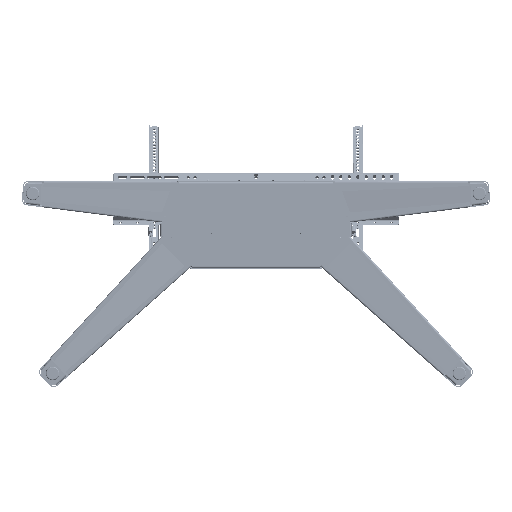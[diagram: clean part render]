
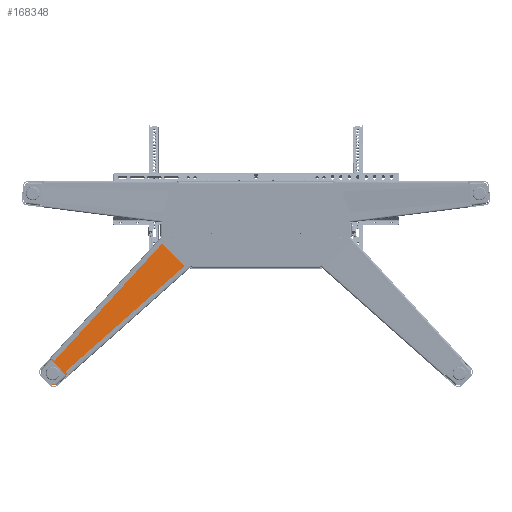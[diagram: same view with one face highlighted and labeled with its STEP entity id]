
A CAD part, left-side view. The second image highlights one B-rep face of the part: STEP entity #168348.
In plain terms, the highlighted planar face has unit normal (-0.999, -0.034, 0.033) as drawn and (0.034, -0.999, 0.033) by its records, which use the part's own axes.
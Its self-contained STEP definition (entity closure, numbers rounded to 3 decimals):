
#165981=CARTESIAN_POINT('',(-273.485,51.496,
-28.513));
#166059=CARTESIAN_POINT('',(-192.036,51.505,
-111.107));
#166082=CARTESIAN_POINT('',(-192.879,51.496,
-110.538));
#166385=DIRECTION('',(0.701,0.,-0.713));
#166386=VECTOR('',#166385,41.477);
#166387=CARTESIAN_POINT('',(-632.435,25.731,
-432.798));
#166388=LINE('',#166387,#166386);
#166454=DIRECTION('',(0.712,0.048,0.7));
#166455=VECTOR('',#166454,0.147);
#166456=CARTESIAN_POINT('',(-603.363,25.731,
-462.382));
#166457=LINE('',#166456,#166455);
#166463=DIRECTION('',(0.676,0.048,0.735));
#166464=VECTOR('',#166463,531.126);
#166465=CARTESIAN_POINT('',(-632.632,26.187,
-418.982));
#166466=LINE('',#166465,#166464);
#166467=CARTESIAN_POINT('',(-273.485,51.496,
-28.513));
#166468=CARTESIAN_POINT('',(-273.475,51.497,
-28.503));
#166469=CARTESIAN_POINT('',(-273.458,51.498,
-28.481));
#166470=CARTESIAN_POINT('',(-273.427,51.5,
-28.453));
#166471=CARTESIAN_POINT('',(-273.407,51.502,
-28.433));
#166472=CARTESIAN_POINT('',(-273.396,51.502,
-28.423));
#166474=CARTESIAN_POINT('',(-192.036,51.505,
-111.107));
#166475=CARTESIAN_POINT('',(-192.062,51.504,
-111.129));
#166476=CARTESIAN_POINT('',(-192.1,51.503,
-111.137));
#166477=CARTESIAN_POINT('',(-192.168,51.503,
-111.073));
#166478=CARTESIAN_POINT('',(-192.241,51.502,
-111.024));
#166479=CARTESIAN_POINT('',(-192.323,51.501,
-110.964));
#166480=CARTESIAN_POINT('',(-192.414,51.5,
-110.9));
#166481=CARTESIAN_POINT('',(-192.514,51.499,
-110.827));
#166482=CARTESIAN_POINT('',(-192.624,51.498,
-110.744));
#166483=CARTESIAN_POINT('',(-192.745,51.497,
-110.649));
#166484=CARTESIAN_POINT('',(-192.833,51.497,
-110.576));
#166485=CARTESIAN_POINT('',(-192.879,51.496,
-110.538));
#166487=DIRECTION('',(-0.747,-0.048,
-0.663));
#166488=VECTOR('',#166487,531.125);
#166489=CARTESIAN_POINT('',(-192.879,51.496,
-110.538));
#166490=LINE('',#166489,#166488);
#166491=DIRECTION('',(-0.664,0.002,0.748));
#166492=VECTOR('',#166491,0.103);
#166493=CARTESIAN_POINT('',(-589.555,26.187,
-462.818));
#166494=LINE('',#166493,#166492);
#166495=CARTESIAN_POINT('',(-589.623,26.187,
-462.741));
#166496=CARTESIAN_POINT('',(-590.456,26.136,
-463.43));
#166497=CARTESIAN_POINT('',(-592.138,26.042,
-464.516));
#166498=CARTESIAN_POINT('',(-594.536,25.937,
-465.207));
#166499=CARTESIAN_POINT('',(-597.446,25.834,
-465.334));
#166500=CARTESIAN_POINT('',(-600.679,25.755,
-464.379));
#166501=CARTESIAN_POINT('',(-602.413,25.739,
-463.108));
#166502=CARTESIAN_POINT('',(-603.259,25.738,
-462.279));
#166504=DIRECTION('',(0.712,0.048,0.7));
#166505=VECTOR('',#166504,0.147);
#166506=CARTESIAN_POINT('',(-632.435,25.731,
-432.798));
#166507=LINE('',#166506,#166505);
#166508=CARTESIAN_POINT('',(-632.33,25.738,
-432.695));
#166509=CARTESIAN_POINT('',(-633.081,25.74,
-431.879));
#166510=CARTESIAN_POINT('',(-634.272,25.755,
-430.211));
#166511=CARTESIAN_POINT('',(-635.099,25.811,
-427.698));
#166512=CARTESIAN_POINT('',(-635.286,25.904,
-424.732));
#166513=CARTESIAN_POINT('',(-634.438,26.038,
-421.593));
#166514=CARTESIAN_POINT('',(-633.304,26.134,
-419.886));
#166515=CARTESIAN_POINT('',(-632.554,26.187,
-419.052));
#166517=CARTESIAN_POINT('',(-632.554,26.187,
-419.052));
#166518=CARTESIAN_POINT('',(-632.58,26.187,
-419.029));
#166519=CARTESIAN_POINT('',(-632.607,26.187,
-419.006));
#166520=CARTESIAN_POINT('',(-632.632,26.187,
-418.982));
#166522=CARTESIAN_POINT('',(-192.036,51.505,
-111.107));
#166523=CARTESIAN_POINT('',(-195.249,51.504,
-107.88));
#166524=CARTESIAN_POINT('',(-201.653,51.504,
-101.4));
#166525=CARTESIAN_POINT('',(-211.217,51.504,
-91.642));
#166526=CARTESIAN_POINT('',(-217.621,51.503,
-85.158));
#166527=CARTESIAN_POINT('',(-220.826,51.502,
-81.917));
#166529=DIRECTION('',(-0.701,0.,0.713));
#166530=VECTOR('',#166529,75.002);
#166531=CARTESIAN_POINT('',(-220.826,51.502,
-81.917));
#166532=LINE('',#166531,#166530);
#167186=VERTEX_POINT('',#165981);
#167187=CARTESIAN_POINT('',(-632.632,26.187,
-418.982));
#167188=VERTEX_POINT('',#167187);
#167193=CARTESIAN_POINT('',(-273.397,51.502,
-28.423));
#167194=VERTEX_POINT('',#167193);
#167200=VERTEX_POINT('',#166059);
#167206=VERTEX_POINT('',#166082);
#167249=CARTESIAN_POINT('',(-589.555,26.187,
-462.818));
#167250=VERTEX_POINT('',#167249);
#167251=CARTESIAN_POINT('',(-589.623,26.187,
-462.741));
#167252=VERTEX_POINT('',#167251);
#167271=CARTESIAN_POINT('',(-632.435,25.731,
-432.798));
#167272=VERTEX_POINT('',#167271);
#167273=CARTESIAN_POINT('',(-603.363,25.731,
-462.382));
#167274=VERTEX_POINT('',#167273);
#167277=CARTESIAN_POINT('',(-632.33,25.738,
-432.695));
#167278=VERTEX_POINT('',#167277);
#167279=CARTESIAN_POINT('',(-603.259,25.738,
-462.279));
#167280=VERTEX_POINT('',#167279);
#167281=CARTESIAN_POINT('',(-220.826,51.502,
-81.917));
#167282=VERTEX_POINT('',#167281);
#167283=VERTEX_POINT('',#166515);
#168323=CARTESIAN_POINT('',(-285.641,51.503,
-15.928));
#168324=DIRECTION('',(0.034,-0.999,0.033));
#168325=DIRECTION('',(-0.712,-0.048,
-0.7));
#168326=AXIS2_PLACEMENT_3D('',#168323,#168324,#168325);
#168327=PLANE('',#168326);
#168328=ORIENTED_EDGE('',*,*,#167597,.T.);
#168329=ORIENTED_EDGE('',*,*,#167657,.T.);
#168331=ORIENTED_EDGE('',*,*,#168330,.F.);
#168333=ORIENTED_EDGE('',*,*,#168332,.F.);
#168334=ORIENTED_EDGE('',*,*,#167770,.T.);
#168335=ORIENTED_EDGE('',*,*,#167980,.T.);
#168336=ORIENTED_EDGE('',*,*,#167998,.T.);
#168338=ORIENTED_EDGE('',*,*,#168337,.T.);
#168339=ORIENTED_EDGE('',*,*,#168314,.F.);
#168340=ORIENTED_EDGE('',*,*,#168193,.F.);
#168341=ORIENTED_EDGE('',*,*,#168212,.T.);
#168343=ORIENTED_EDGE('',*,*,#168342,.T.);
#168345=ORIENTED_EDGE('',*,*,#168344,.T.);
#168346=EDGE_LOOP('',(#168328,#168329,#168331,#168333,#168334,#168335,#168336,
#168338,#168339,#168340,#168341,#168343,#168345));
#168347=FACE_OUTER_BOUND('',#168346,.F.);
#168348=ADVANCED_FACE('',(#168347),#168327,.T.);
#166473=B_SPLINE_CURVE_WITH_KNOTS('',3,(#166467,#166468,#166469,#166470,#166471,
#166472),.UNSPECIFIED.,.F.,.F.,(4,1,1,4),(0.,0.333,
0.667,1.),.UNSPECIFIED.);
#166486=B_SPLINE_CURVE_WITH_KNOTS('',3,(#166474,#166475,#166476,#166477,#166478,
#166479,#166480,#166481,#166482,#166483,#166484,#166485),.UNSPECIFIED.,.F.,.F.,(
4,1,1,1,1,1,1,1,1,4),(0.,0.111,0.222,
0.333,0.444,0.556,0.667,
0.778,0.889,1.),.UNSPECIFIED.);
#166503=B_SPLINE_CURVE_WITH_KNOTS('',3,(#166495,#166496,#166497,#166498,#166499,
#166500,#166501,#166502),.UNSPECIFIED.,.F.,.F.,(4,1,1,1,1,4),(0.,
0.198,0.399,0.6,0.8,1.),
.UNSPECIFIED.);
#166516=B_SPLINE_CURVE_WITH_KNOTS('',3,(#166508,#166509,#166510,#166511,#166512,
#166513,#166514,#166515),.UNSPECIFIED.,.F.,.F.,(4,1,1,1,1,4),(0.,
0.198,0.399,0.6,0.8,1.),
.UNSPECIFIED.);
#166521=B_SPLINE_CURVE_WITH_KNOTS('',3,(#166517,#166518,#166519,#166520),
.UNSPECIFIED.,.F.,.F.,(4,4),(0.,1.),.UNSPECIFIED.);
#166528=B_SPLINE_CURVE_WITH_KNOTS('',3,(#166522,#166523,#166524,#166525,#166526,
#166527),.UNSPECIFIED.,.F.,.F.,(4,1,1,4),(0.,0.333,
0.667,1.),.UNSPECIFIED.);
#167597=EDGE_CURVE('',#167188,#167186,#166466,.T.);
#167657=EDGE_CURVE('',#167186,#167194,#166473,.T.);
#167770=EDGE_CURVE('',#167200,#167206,#166486,.T.);
#167980=EDGE_CURVE('',#167206,#167250,#166490,.T.);
#167998=EDGE_CURVE('',#167250,#167252,#166494,.T.);
#168193=EDGE_CURVE('',#167272,#167274,#166388,.T.);
#168212=EDGE_CURVE('',#167272,#167278,#166507,.T.);
#168314=EDGE_CURVE('',#167274,#167280,#166457,.T.);
#168330=EDGE_CURVE('',#167282,#167194,#166532,.T.);
#168332=EDGE_CURVE('',#167200,#167282,#166528,.T.);
#168337=EDGE_CURVE('',#167252,#167280,#166503,.T.);
#168342=EDGE_CURVE('',#167278,#167283,#166516,.T.);
#168344=EDGE_CURVE('',#167283,#167188,#166521,.T.);
